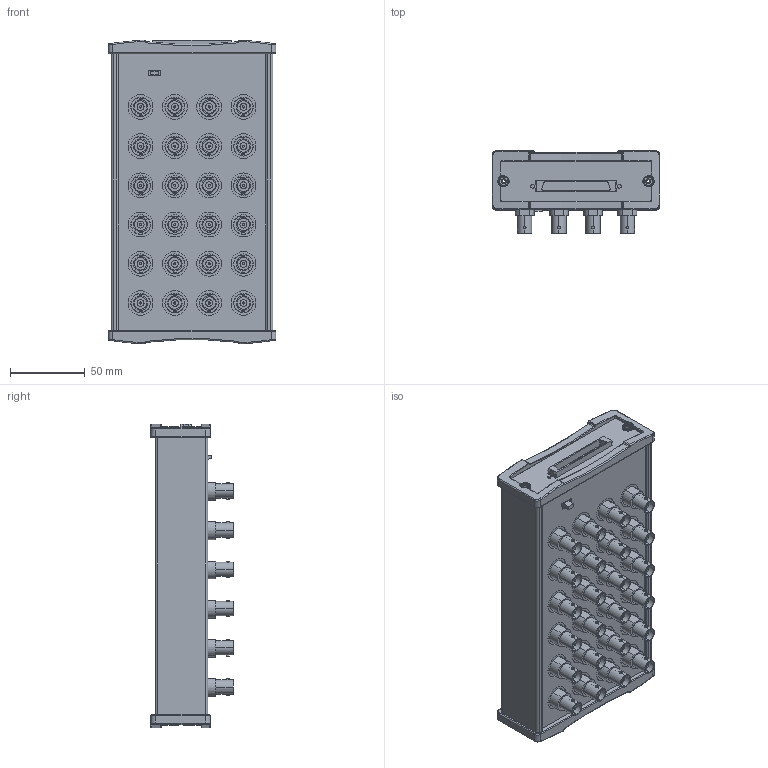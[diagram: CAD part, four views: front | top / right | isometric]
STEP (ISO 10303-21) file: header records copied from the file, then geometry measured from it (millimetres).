
FILE_DESCRIPTION((''),'2;1');
FILE_NAME('CD_BNC-2111','2008-01-15T',('scarrasc'),(''),'PRO/ENGINEER BY PARAMETRIC TECHNOLOGY CORPORATION, 2006080','PRO/ENGINEER BY PARAMETRIC TECHNOLOGY CORPORATION, 2006080','');
FILE_SCHEMA(('CONFIG_CONTROL_DESIGN'));
Products named in the file (1): CD_BNC-2111
Bounding box: 112.01 x 54.99 x 202.71 mm (x, y, z)
Volume: 294306.9 mm3; surface area: 204328.5 mm2
Topology: 3 solids, 3 shells, 2255 faces, 5525 edges, 3627 vertices
Faces by surface type: plane 1303, cylinder 856, torus 60, bspline 36
Entity records: 70462 total; most frequent: CARTESIAN_POINT 15855, DIRECTION 11526, ORIENTED_EDGE 11050, EDGE_CURVE 5525, AXIS2_PLACEMENT_3D 3966, VERTEX_POINT 3627, VECTOR 3594, LINE 3594
